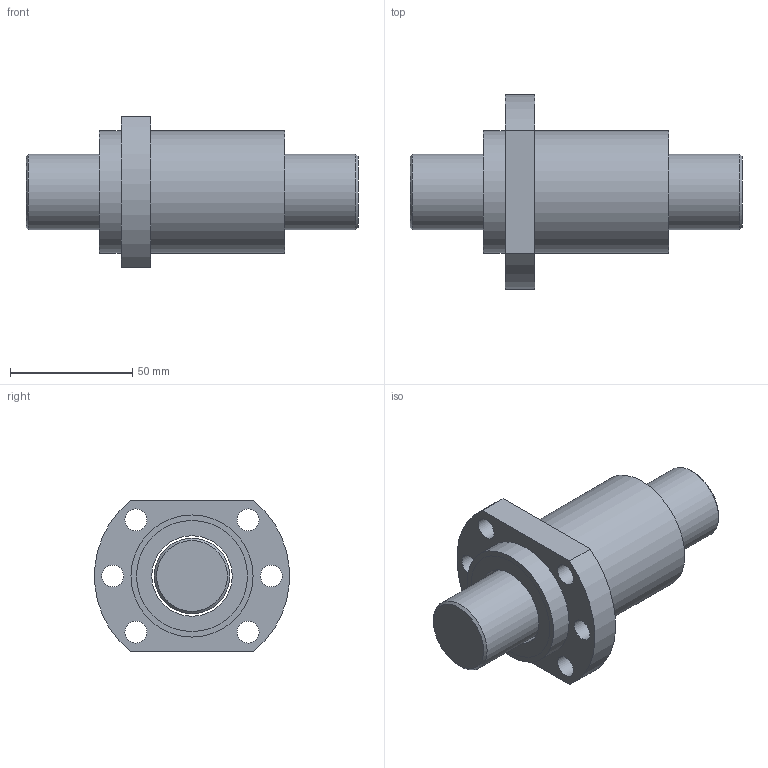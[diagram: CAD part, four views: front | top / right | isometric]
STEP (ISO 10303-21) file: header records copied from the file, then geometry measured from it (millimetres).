
FILE_DESCRIPTION(/* description */ (''),/* implementation_level */ '2;1');
FILE_NAME(/* name */ 'SFH3220-2.8.stp',/* time_stamp */ '2014-10-15T13:13:12+08:00',/* author */ (''),/* organization */ (''),/* preprocessor_version */ 'ST-DEVELOPER v11',/* originating_system */ 'SIEMENS UGS NX 6.0',/* authorisation */ '');
FILE_SCHEMA (('CONFIG_CONTROL_DESIGN'));
Length unit declared in the file: millimetre
Products named in the file (1): fannB1F9gmed
Bounding box: 136 x 79.74 x 62 mm (x, y, z)
Volume: 211490.7 mm3; surface area: 51738.6 mm2
Topology: 4 solids, 4 shells, 50 faces, 90 edges, 60 vertices
Faces by surface type: cylinder 26, plane 22, cone 2
Full cylindrical faces by diameter (mm): 9 x6, 31 x1, 33 x3, 42 x4, 45.5 x4, 47 x4, 50 x2
Entity records: 1216 total; most frequent: DIRECTION 218, CARTESIAN_POINT 171, ORIENTED_EDGE 124, EDGE_LOOP 106, AXIS2_PLACEMENT_3D 105, FACE_BOUND 100, EDGE_CURVE 62, VERTEX_POINT 58
